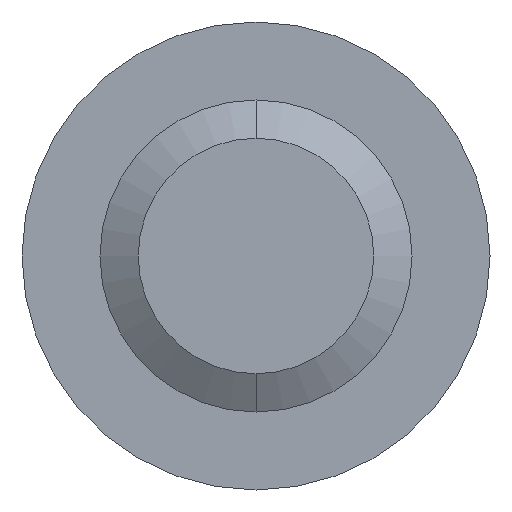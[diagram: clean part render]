
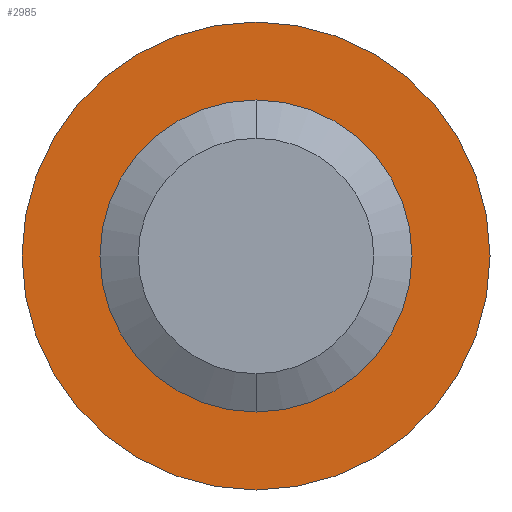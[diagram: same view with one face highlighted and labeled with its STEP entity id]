
A CAD part, front view. The second image highlights one B-rep face of the part: STEP entity #2985.
In plain terms, the highlighted planar face has unit normal (0, -1, 0).
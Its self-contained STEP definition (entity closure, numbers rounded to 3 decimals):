
#58 = CARTESIAN_POINT ( 'NONE',  ( 0., 40., 0. ) ) ;
#290 = CIRCLE ( 'NONE', #1872, 6. ) ;
#440 = DIRECTION ( 'NONE',  ( 0., 1., 0. ) ) ;
#554 = DIRECTION ( 'NONE',  ( 0., 0., 1. ) ) ;
#595 = FACE_BOUND ( 'NONE', #1148, .T. ) ;
#822 = ORIENTED_EDGE ( 'NONE', *, *, #1726, .T. ) ;
#835 = FACE_OUTER_BOUND ( 'NONE', #1424, .T. ) ;
#855 = DIRECTION ( 'NONE',  ( 0., 0., 1. ) ) ;
#1106 = CARTESIAN_POINT ( 'NONE',  ( 0., 40., 0. ) ) ;
#1148 = EDGE_LOOP ( 'NONE', ( #822, #1411 ) ) ;
#1167 = CARTESIAN_POINT ( 'NONE',  ( 0., 40., 6. ) ) ;
#1178 = EDGE_CURVE ( 'NONE', #2197, #3176, #2944, .T. ) ;
#1294 = DIRECTION ( 'NONE',  ( 0., 1., 0. ) ) ;
#1338 = PLANE ( 'NONE',  #2950 ) ;
#1360 = AXIS2_PLACEMENT_3D ( 'NONE', #58, #2756, #2787 ) ;
#1382 = ORIENTED_EDGE ( 'NONE', *, *, #1178, .F. ) ;
#1411 = ORIENTED_EDGE ( 'NONE', *, *, #1869, .T. ) ;
#1424 = EDGE_LOOP ( 'NONE', ( #2385, #1382 ) ) ;
#1573 = CARTESIAN_POINT ( 'NONE',  ( 0., 40., -6. ) ) ;
#1581 = CARTESIAN_POINT ( 'NONE',  ( 0., 40., 0. ) ) ;
#1658 = AXIS2_PLACEMENT_3D ( 'NONE', #1672, #440, #3156 ) ;
#1672 = CARTESIAN_POINT ( 'NONE',  ( 0., 40., 0. ) ) ;
#1726 = EDGE_CURVE ( 'NONE', #2511, #3130, #3161, .T. ) ;
#1869 = EDGE_CURVE ( 'NONE', #3130, #2511, #290, .T. ) ;
#1872 = AXIS2_PLACEMENT_3D ( 'NONE', #1581, #2570, #2588 ) ;
#2001 = CARTESIAN_POINT ( 'NONE',  ( 0., 40., 9. ) ) ;
#2197 = VERTEX_POINT ( 'NONE', #2001 ) ;
#2385 = ORIENTED_EDGE ( 'NONE', *, *, #2618, .F. ) ;
#2480 = CIRCLE ( 'NONE', #1658, 9. ) ;
#2511 = VERTEX_POINT ( 'NONE', #1573 ) ;
#2570 = DIRECTION ( 'NONE',  ( 0., 1., 0. ) ) ;
#2588 = DIRECTION ( 'NONE',  ( 0., 0., 1. ) ) ;
#2618 = EDGE_CURVE ( 'NONE', #3176, #2197, #2480, .T. ) ;
#2756 = DIRECTION ( 'NONE',  ( 0., 1., 0. ) ) ;
#2787 = DIRECTION ( 'NONE',  ( 0., 0., 1. ) ) ;
#2882 = CARTESIAN_POINT ( 'NONE',  ( 0., 40., -9. ) ) ;
#2944 = CIRCLE ( 'NONE', #3046, 9. ) ;
#2950 = AXIS2_PLACEMENT_3D ( 'NONE', #1106, #3028, #855 ) ;
#2985 = ADVANCED_FACE ( 'NONE', ( #835, #595 ), #1338, .F. ) ;
#3017 = CARTESIAN_POINT ( 'NONE',  ( 0., 40., 0. ) ) ;
#3028 = DIRECTION ( 'NONE',  ( 0., 1., 0. ) ) ;
#3046 = AXIS2_PLACEMENT_3D ( 'NONE', #3017, #1294, #554 ) ;
#3130 = VERTEX_POINT ( 'NONE', #1167 ) ;
#3156 = DIRECTION ( 'NONE',  ( 0., 0., 1. ) ) ;
#3161 = CIRCLE ( 'NONE', #1360, 6. ) ;
#3176 = VERTEX_POINT ( 'NONE', #2882 ) ;
